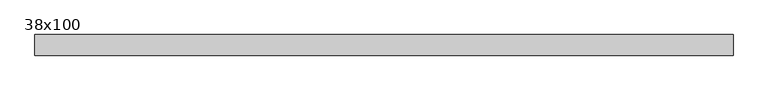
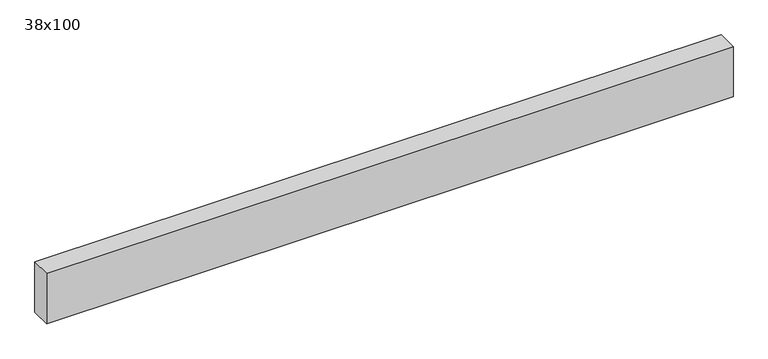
"""IFC4 building model written with IfcOpenShell, lengths in millimetres: beam geometry, Poutre - Bois de construction de dimensions courantes : 38x100."""

from ifc_helpers import new_model, si_unit, frame, origin, place, context, project, spatial, polyline, outline, extrude, source, transform, mapped, element, save


def beam_38x100_64c31a40(model_context):
    return source(origin(), model_context, "Body", "SweptSolid", [
        extrude(outline(polyline([(641.0, 19.05), (641.0, -19.05), (-650.0, -19.05), (-650.0, 19.05), (641.0, 19.05)])), frame((0.0, 0.0, -50.0), z_axis=(0.0, 0.0, 1.0), x_axis=(1.0, 0.0, 0.0)), (0.0, 0.0, 1.0), 100.0),
    ])


if __name__ == "__main__":
    model = new_model("IFC4")
    model_context = context("Model", 3, world=origin())
    ifc_project = project(units=[si_unit("LENGTHUNIT", "METRE", prefix="MILLI")], contexts=[model_context])
    site = spatial("IfcSite", under=ifc_project)
    building = spatial("IfcBuilding", under=site)
    placement = place(None, origin())
    beam_38x100_shape = beam_38x100_64c31a40(model_context)
    element("IfcBeam", 1, ObjectType="Poutre - Bois de construction de dimensions courantes : 38x100", at=placement, inside=building, context=model_context, shape_type="MappedRepresentation", body=[
        mapped(beam_38x100_shape, transform((0.0, 0.0, 0.0), x_axis=(1.0, 0.0, 0.0), y_axis=(0.0, 1.0, 0.0), z_axis=(0.0, 0.0, 1.0))),
    ])
    save(model, "model.ifc")
